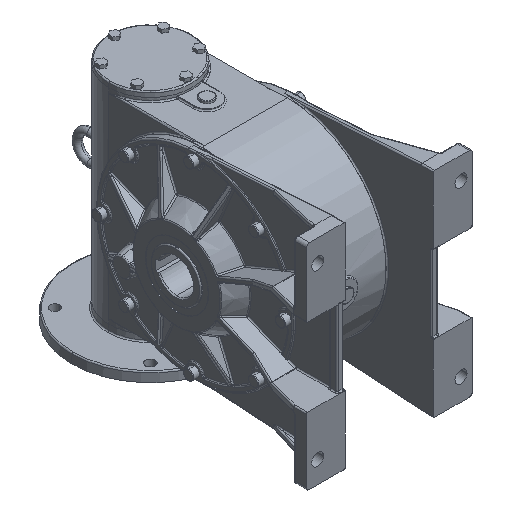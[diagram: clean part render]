
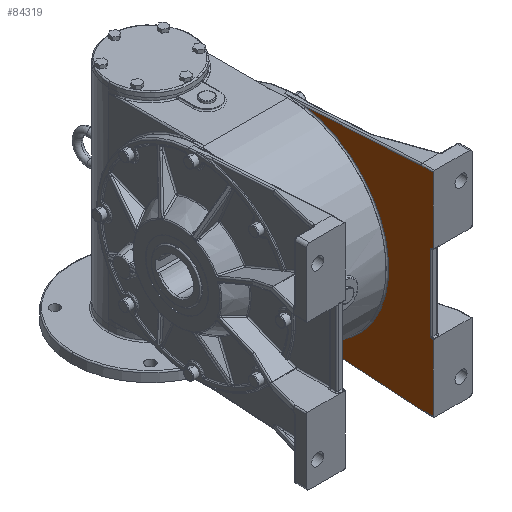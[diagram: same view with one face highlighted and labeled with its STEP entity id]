
A CAD part, isometric view. The second image highlights one B-rep face of the part: STEP entity #84319.
In plain terms, the highlighted planar face has unit normal (-1, 0, 0) as drawn and (0, 0, 1) by its records, which use the part's own axes.
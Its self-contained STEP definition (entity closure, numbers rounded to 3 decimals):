
#66790 = CARTESIAN_POINT ( 'NONE',  ( -62., -230., -2. ) ) ;
#66791 = DIRECTION ( 'NONE',  ( 0., -1., 0. ) ) ;
#66792 = VECTOR ( 'NONE', #66791, 1000. ) ;
#66793 = CARTESIAN_POINT ( 'NONE',  ( -62., -230., -2. ) ) ;
#66794 = LINE ( 'NONE', #66793, #66792 ) ;
#66800 = CARTESIAN_POINT ( 'NONE',  ( -62., -228.464, -2. ) ) ;
#66932 = CARTESIAN_POINT ( 'NONE',  ( 62., -228.464, -2. ) ) ;
#66933 = CARTESIAN_POINT ( 'NONE',  ( 62., -230., -2. ) ) ;
#66934 = DIRECTION ( 'NONE',  ( 0., 1., 0. ) ) ;
#66935 = VECTOR ( 'NONE', #66934, 1000. ) ;
#66936 = CARTESIAN_POINT ( 'NONE',  ( 62., -230., -2. ) ) ;
#66937 = LINE ( 'NONE', #66936, #66935 ) ;
#83899 = ORIENTED_EDGE ( 'NONE', *, *, #84453, .T. ) ;
#84084 = EDGE_CURVE ( 'NONE', #94190, #84087, #103733, .T. ) ;
#84087 = VERTEX_POINT ( 'NONE', #103726 ) ;
#84167 = VERTEX_POINT ( 'NONE', #103898 ) ;
#84171 = EDGE_CURVE ( 'NONE', #84167, #94311, #103893, .T. ) ;
#84283 = VERTEX_POINT ( 'NONE', #104154 ) ;
#84285 = ORIENTED_EDGE ( 'NONE', *, *, #84287, .T. ) ;
#84287 = EDGE_CURVE ( 'NONE', #84283, #84087, #104148, .T. ) ;
#84289 = ORIENTED_EDGE ( 'NONE', *, *, #84084, .F. ) ;
#84290 = ORIENTED_EDGE ( 'NONE', *, *, #94188, .F. ) ;
#84292 = ORIENTED_EDGE ( 'NONE', *, *, #84294, .T. ) ;
#84294 = EDGE_CURVE ( 'NONE', #94184, #84297, #104138, .T. ) ;
#84297 = VERTEX_POINT ( 'NONE', #104135 ) ;
#84299 = ORIENTED_EDGE ( 'NONE', *, *, #84301, .T. ) ;
#84301 = EDGE_CURVE ( 'NONE', #84297, #84424, #104287, .T. ) ;
#84319 = ADVANCED_FACE ( 'NONE', ( #104225 ), #104221, .F. ) ;
#84323 = EDGE_LOOP ( 'NONE', ( #84325, #83899, #84457, #84285, #84289, #84290, #84292, #84299, #84426, #84431, #84433, #84435 ) ) ;
#84325 = ORIENTED_EDGE ( 'NONE', *, *, #84327, .T. ) ;
#84327 = EDGE_CURVE ( 'NONE', #84329, #84331, #104344, .T. ) ;
#84329 = VERTEX_POINT ( 'NONE', #104338 ) ;
#84331 = VERTEX_POINT ( 'NONE', #104337 ) ;
#84424 = VERTEX_POINT ( 'NONE', #104487 ) ;
#84426 = ORIENTED_EDGE ( 'NONE', *, *, #84428, .T. ) ;
#84428 = EDGE_CURVE ( 'NONE', #84424, #94312, #104484, .T. ) ;
#84431 = ORIENTED_EDGE ( 'NONE', *, *, #94308, .F. ) ;
#84433 = ORIENTED_EDGE ( 'NONE', *, *, #84171, .F. ) ;
#84435 = ORIENTED_EDGE ( 'NONE', *, *, #84437, .T. ) ;
#84437 = EDGE_CURVE ( 'NONE', #84167, #84329, #104483, .T. ) ;
#84453 = EDGE_CURVE ( 'NONE', #84331, #84455, #104563, .T. ) ;
#84455 = VERTEX_POINT ( 'NONE', #104556 ) ;
#84457 = ORIENTED_EDGE ( 'NONE', *, *, #84459, .T. ) ;
#84459 = EDGE_CURVE ( 'NONE', #84455, #84283, #104627, .T. ) ;
#94184 = VERTEX_POINT ( 'NONE', #66800 ) ;
#94188 = EDGE_CURVE ( 'NONE', #94184, #94190, #66794, .T. ) ;
#94190 = VERTEX_POINT ( 'NONE', #66790 ) ;
#94308 = EDGE_CURVE ( 'NONE', #94311, #94312, #66937, .T. ) ;
#94311 = VERTEX_POINT ( 'NONE', #66933 ) ;
#94312 = VERTEX_POINT ( 'NONE', #66932 ) ;
#103726 = CARTESIAN_POINT ( 'NONE',  ( -168., -230., -2. ) ) ;
#103728 = DIRECTION ( 'NONE',  ( -1., 0., 0. ) ) ;
#103730 = VECTOR ( 'NONE', #103728, 1000. ) ;
#103732 = CARTESIAN_POINT ( 'NONE',  ( -62., -230., -2. ) ) ;
#103733 = LINE ( 'NONE', #103732, #103730 ) ;
#103888 = DIRECTION ( 'NONE',  ( -1., 0., 0. ) ) ;
#103889 = VECTOR ( 'NONE', #103888, 1000. ) ;
#103892 = CARTESIAN_POINT ( 'NONE',  ( 170., -230., -2. ) ) ;
#103893 = LINE ( 'NONE', #103892, #103889 ) ;
#103898 = CARTESIAN_POINT ( 'NONE',  ( 168., -230., -2. ) ) ;
#104135 = CARTESIAN_POINT ( 'NONE',  ( -60., -225., -2. ) ) ;
#104138 = B_SPLINE_CURVE_WITH_KNOTS ( 'NONE', 3,
 ( #104281, #104279, #104277, #104275, #104273, #104271, #104269, #104267, #104265, #104263 ),
 .UNSPECIFIED., .F., .F.,
 ( 4, 2, 2, 2, 4 ),
 ( 0., 0.001, 0.002, 0.003, 0.004 ),
 .UNSPECIFIED. ) ;
#104143 = DIRECTION ( 'NONE',  ( 0., -1., 0. ) ) ;
#104145 = VECTOR ( 'NONE', #104143, 1000. ) ;
#104147 = CARTESIAN_POINT ( 'NONE',  ( -168., -230., -2. ) ) ;
#104148 = LINE ( 'NONE', #104147, #104145 ) ;
#104154 = CARTESIAN_POINT ( 'NONE',  ( -168., -210.06, -2. ) ) ;
#104216 = DIRECTION ( 'NONE',  ( 0., 0., -1. ) ) ;
#104218 = CARTESIAN_POINT ( 'NONE',  ( 0., 0., -2. ) ) ;
#104220 = AXIS2_PLACEMENT_3D ( 'NONE', #104218, #104216, #104347 ) ;
#104221 = PLANE ( 'NONE',  #104220 ) ;
#104225 = FACE_OUTER_BOUND ( 'NONE', #84323, .T. ) ;
#104261 = DIRECTION ( 'NONE',  ( 1., 0., 0. ) ) ;
#104263 = CARTESIAN_POINT ( 'NONE',  ( -60., -225., -2. ) ) ;
#104265 = CARTESIAN_POINT ( 'NONE',  ( -60.241, -225.241, -2. ) ) ;
#104267 = CARTESIAN_POINT ( 'NONE',  ( -60.485, -225.485, -2. ) ) ;
#104269 = CARTESIAN_POINT ( 'NONE',  ( -60.945, -225.993, -2. ) ) ;
#104271 = CARTESIAN_POINT ( 'NONE',  ( -61.164, -226.261, -2. ) ) ;
#104273 = CARTESIAN_POINT ( 'NONE',  ( -61.543, -226.83, -2. ) ) ;
#104275 = CARTESIAN_POINT ( 'NONE',  ( -61.703, -227.131, -2. ) ) ;
#104277 = CARTESIAN_POINT ( 'NONE',  ( -61.934, -227.782, -2. ) ) ;
#104279 = CARTESIAN_POINT ( 'NONE',  ( -62., -228.117, -2. ) ) ;
#104281 = CARTESIAN_POINT ( 'NONE',  ( -62., -228.464, -2. ) ) ;
#104283 = VECTOR ( 'NONE', #104261, 1000. ) ;
#104285 = CARTESIAN_POINT ( 'NONE',  ( 62., -225., -2. ) ) ;
#104287 = LINE ( 'NONE', #104285, #104283 ) ;
#104337 = CARTESIAN_POINT ( 'NONE',  ( 156.858, -26.009, -2. ) ) ;
#104338 = CARTESIAN_POINT ( 'NONE',  ( 168., -210.06, -2. ) ) ;
#104339 = DIRECTION ( 'NONE',  ( -0.06, 0.998, 0. ) ) ;
#104341 = VECTOR ( 'NONE', #104339, 1000. ) ;
#104342 = CARTESIAN_POINT ( 'NONE',  ( 154.717, 9.366, -2. ) ) ;
#104344 = LINE ( 'NONE', #104342, #104341 ) ;
#104347 = DIRECTION ( 'NONE',  ( -1., 0., 0. ) ) ;
#104483 = LINE ( 'NONE', #104600, #104598 ) ;
#104484 = B_SPLINE_CURVE_WITH_KNOTS ( 'NONE', 3,
 ( #104593, #104592, #104590, #104589, #104588, #104587, #104586, #104585, #104583, #104580 ),
 .UNSPECIFIED., .F., .F.,
 ( 4, 2, 2, 2, 4 ),
 ( 0., 0.001, 0.002, 0.003, 0.004 ),
 .UNSPECIFIED. ) ;
#104487 = CARTESIAN_POINT ( 'NONE',  ( 60., -225., -2. ) ) ;
#104556 = CARTESIAN_POINT ( 'NONE',  ( -156.858, -26.009, -2. ) ) ;
#104558 = DIRECTION ( 'NONE',  ( -1., 0., 0. ) ) ;
#104560 = DIRECTION ( 'NONE',  ( 0., 0., -1. ) ) ;
#104561 = CARTESIAN_POINT ( 'NONE',  ( 0., 0., -2. ) ) ;
#104562 = AXIS2_PLACEMENT_3D ( 'NONE', #104561, #104560, #104558 ) ;
#104563 = CIRCLE ( 'NONE', #104562, 159. ) ;
#104580 = CARTESIAN_POINT ( 'NONE',  ( 62., -228.464, -2. ) ) ;
#104583 = CARTESIAN_POINT ( 'NONE',  ( 62., -228.117, -2. ) ) ;
#104585 = CARTESIAN_POINT ( 'NONE',  ( 61.934, -227.782, -2. ) ) ;
#104586 = CARTESIAN_POINT ( 'NONE',  ( 61.703, -227.131, -2. ) ) ;
#104587 = CARTESIAN_POINT ( 'NONE',  ( 61.543, -226.83, -2. ) ) ;
#104588 = CARTESIAN_POINT ( 'NONE',  ( 61.164, -226.261, -2. ) ) ;
#104589 = CARTESIAN_POINT ( 'NONE',  ( 60.945, -225.993, -2. ) ) ;
#104590 = CARTESIAN_POINT ( 'NONE',  ( 60.485, -225.485, -2. ) ) ;
#104592 = CARTESIAN_POINT ( 'NONE',  ( 60.242, -225.242, -2. ) ) ;
#104593 = CARTESIAN_POINT ( 'NONE',  ( 60., -225., -2. ) ) ;
#104596 = DIRECTION ( 'NONE',  ( 0., 1., 0. ) ) ;
#104598 = VECTOR ( 'NONE', #104596, 1000. ) ;
#104600 = CARTESIAN_POINT ( 'NONE',  ( 168., -210., -2. ) ) ;
#104623 = DIRECTION ( 'NONE',  ( -0.06, -0.998, 0. ) ) ;
#104624 = VECTOR ( 'NONE', #104623, 1000. ) ;
#104626 = CARTESIAN_POINT ( 'NONE',  ( -168.004, -210.121, -2. ) ) ;
#104627 = LINE ( 'NONE', #104626, #104624 ) ;
